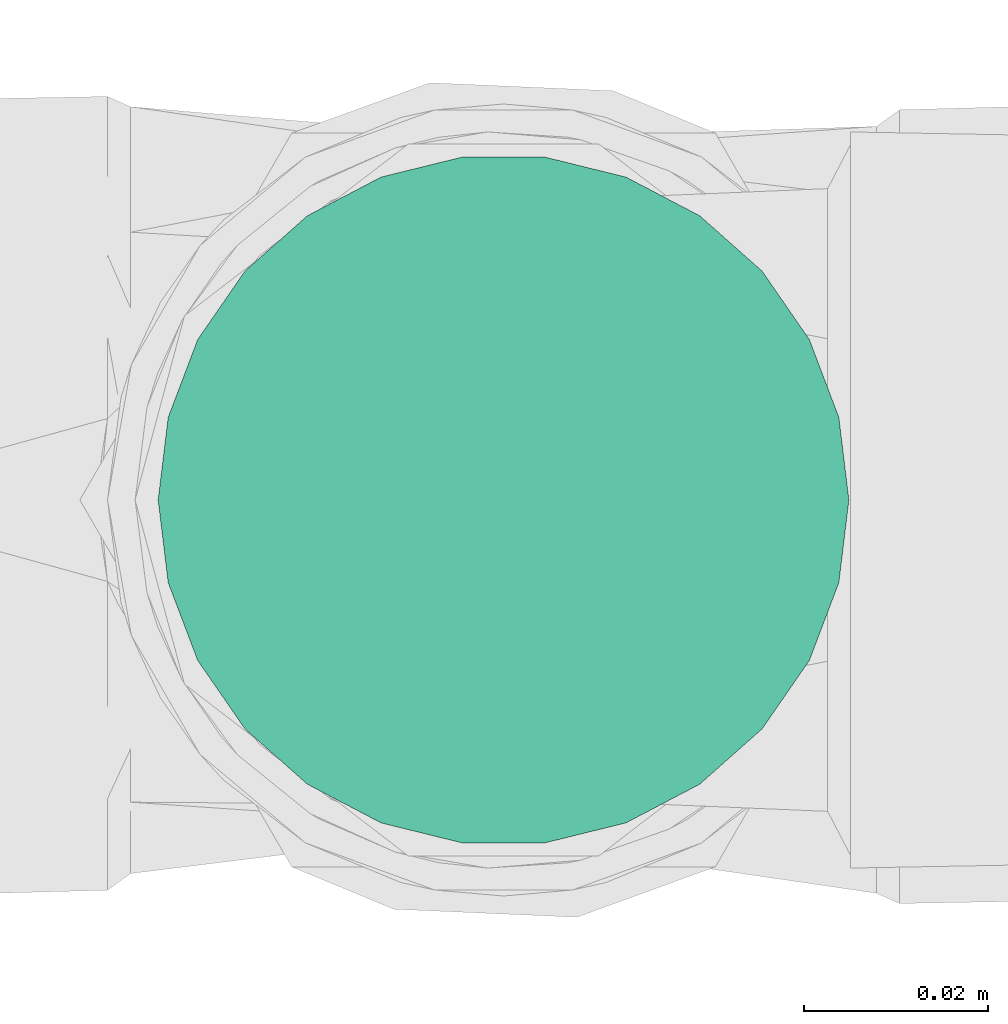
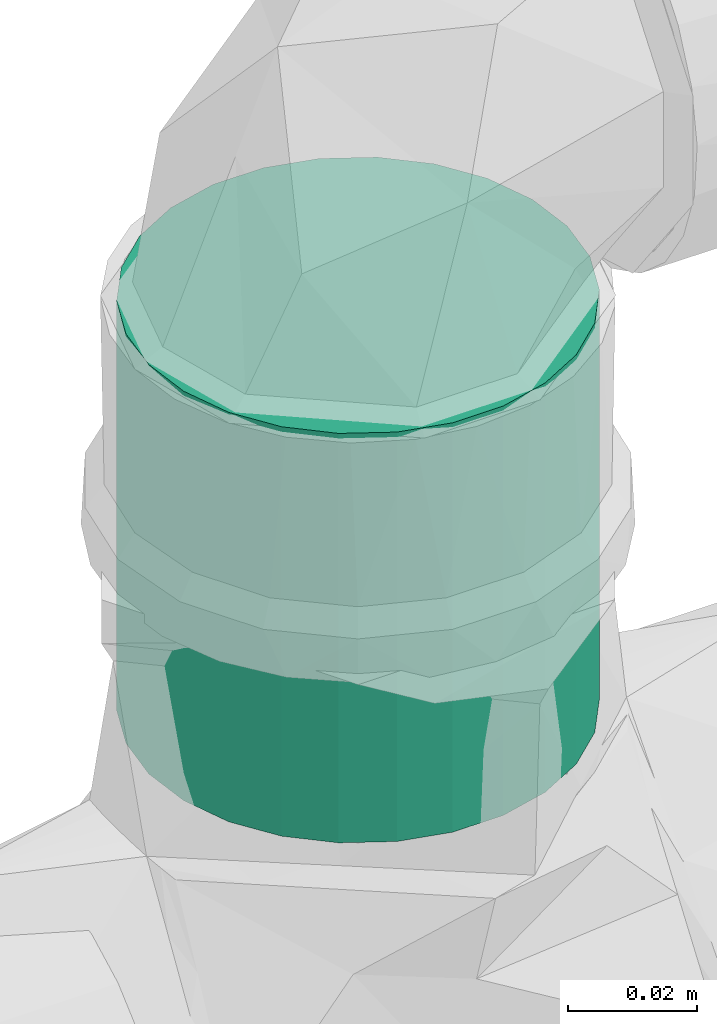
# One storey, part 54 of 166: 1 flow segment.
"""IFC2X3 building model written with IfcOpenShell, lengths in metres."""

from ifc_helpers import new_model, entity, si_unit, converted_unit, direction, frame, frame_2d, origin, place, context, subcontext, project, spatial, circle, extrude, type_object, element, save


model = new_model("IFC2X3")

# Units and contexts
model_context = context("Model", 3, precision=1e-05, world=origin(), true_north=direction((6.123233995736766e-17, 1.0)))
body_context = subcontext(model_context, "Body", "Model", "MODEL_VIEW")
ifc_project = project(units=[si_unit("LENGTHUNIT", "METRE"), converted_unit("PLANEANGLEUNIT", "DEGREE", entity("IfcPlaneAngleMeasure", 0.017453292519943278), si_unit("PLANEANGLEUNIT", "RADIAN"), dimensions=[0, 0, 0, 0, 0, 0, 0]), si_unit("AREAUNIT", "SQUARE_METRE")], contexts=[model_context])

# Site, building, storey
site_placement = place(None, origin())
site = spatial("IfcSite", under=ifc_project, at=site_placement, Name="Default", CompositionType="ELEMENT")
building_placement = place(site_placement, origin())
building = spatial("IfcBuilding", under=site, at=building_placement, Name="CASA DE ACOLHIDA PARA IDOSOS", CompositionType="ELEMENT")
storey_placement = place(building_placement, frame((0.0, 0.0, -1.7499999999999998)))
storey = spatial("IfcBuildingStorey", under=building, at=storey_placement, Name="IMPLANTAÇÃO DRENAGEM", CompositionType="ELEMENT", Elevation=-1.7499999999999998)

# Flow segment
pipe_segment_type = type_object("IfcPipeSegmentType", Name="Tipos de tubos:AF_Tubo Branco Roscável", PredefinedType="NOTDEFINED")
flow_segment_placement = place(storey_placement, origin())
element("IfcFlowSegment", 1, at=flow_segment_placement, inside=storey, type_object=pipe_segment_type, Name="Tipos de tubos:AF_Tubo Branco Roscável", ObjectType="Tipos de tubos:AF_Tubo Branco Roscável", context=body_context, shape_type="SweptSolid", body=[
    extrude(circle(Radius=0.037500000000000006, at=frame_2d((0.0, -3.383959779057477e-17), x_axis=(1.0, 0.0))), frame((-64.90728057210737, -0.2513781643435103, 0.18473317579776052)), (0.0, 0.0, 1.0), 0.07756682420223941),
])

save(model, "model.ifc")
